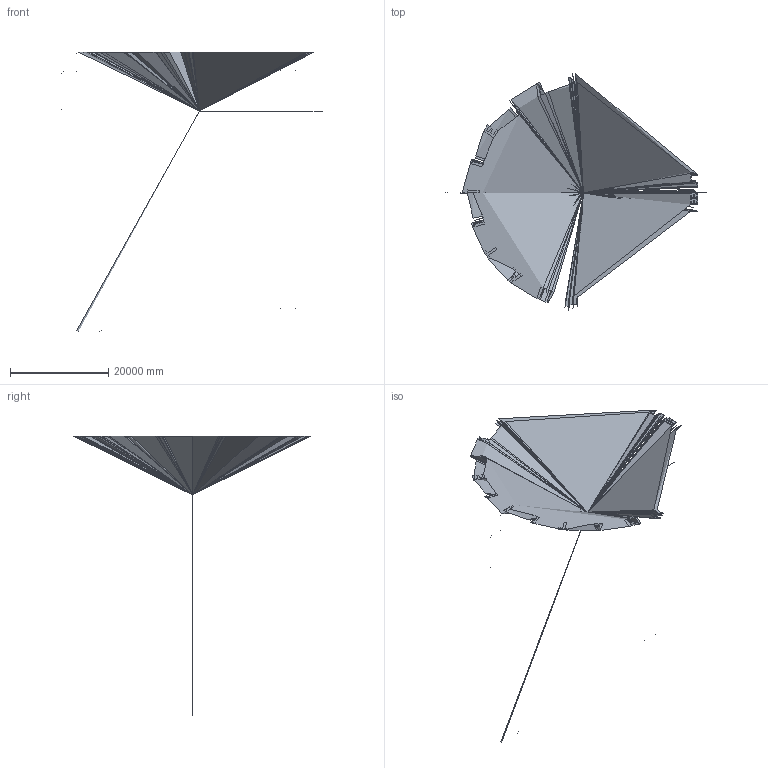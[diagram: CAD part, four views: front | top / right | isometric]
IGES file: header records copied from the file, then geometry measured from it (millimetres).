
Start section: C
Global section: file name: BEE3257.igs; native system: By Siemens PLM Incorporated; preprocessor: XPlus GENERIC/IGES 18.0.17; author: Author; organization: Title; date: 20240807.091547; units: millimetre
Bounding box: 53000 x 48138.39 x 57000 mm (x, y, z)
Volume: 2942442.6 mm3; surface area: 29874.4 mm2
Topology: 1 solids, 5 shells, 260 faces, 688 edges, 459 vertices
Faces by surface type: bspline 260
